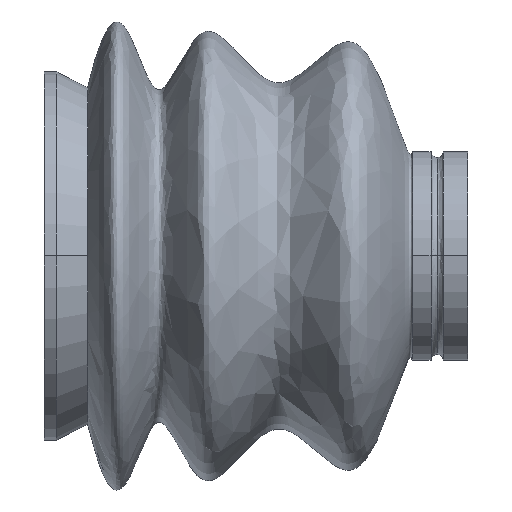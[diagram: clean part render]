
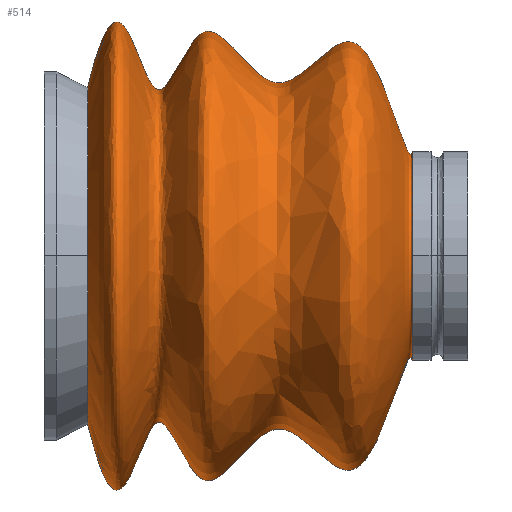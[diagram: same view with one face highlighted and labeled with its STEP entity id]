
A CAD part, top view. The second image highlights one B-rep face of the part: STEP entity #514.
In plain terms, the highlighted free-form (B-spline) face has degree [3, 3] with [8, 4] control points.
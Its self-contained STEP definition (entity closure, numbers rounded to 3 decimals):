
#1 = EDGE_CURVE ( 'NONE', #435, #328, #755, .T. ) ;
#2 = CARTESIAN_POINT ( 'NONE',  ( 26.506, -23.574, 47.148 ) ) ;
#12 = CARTESIAN_POINT ( 'NONE',  ( 26.506, 23.574, 0. ) ) ;
#18 = EDGE_CURVE ( 'NONE', #328, #357, #127, .T. ) ;
#21 = CARTESIAN_POINT ( 'NONE',  ( 26.506, -23.574, 0. ) ) ;
#25 = ORIENTED_EDGE ( 'NONE', *, *, #18, .F. ) ;
#28 = CARTESIAN_POINT ( 'NONE',  ( 26.506, 23.574, 47.148 ) ) ;
#35 = CIRCLE ( 'NONE', #361, 8.5 ) ;
#37 = CARTESIAN_POINT ( 'NONE',  ( 30., 0., 0. ) ) ;
#42 = CARTESIAN_POINT ( 'NONE',  ( 18.758, -9.871, 0. ) ) ;
#45 = CARTESIAN_POINT ( 'NONE',  ( 30., 8.5, 17. ) ) ;
#46 = DIRECTION ( 'NONE',  ( -1., 0., 0. ) ) ;
#57 = ORIENTED_EDGE ( 'NONE', *, *, #941, .T. ) ;
#73 = B_SPLINE_CURVE_WITH_KNOTS ( 'NONE', 3,
 ( #659, #516, #692, #695, #571, #548, #483, #697 ),
 .UNSPECIFIED., .F., .F.,
 ( 4, 1, 1, 1, 1, 4 ),
 ( 0., 0.256, 0.401, 0.579, 0.747, 1. ),
 .UNSPECIFIED. ) ;
#107 = CARTESIAN_POINT ( 'NONE',  ( 3.534, 0., 0. ) ) ;
#108 = EDGE_CURVE ( 'NONE', #673, #357, #275, .T. ) ;
#114 = DIRECTION ( 'NONE',  ( 0., 0., 1. ) ) ;
#127 = CIRCLE ( 'NONE', #555, 13.692 ) ;
#128 = DIRECTION ( 'NONE',  ( 0., 0., 1. ) ) ;
#131 = FACE_OUTER_BOUND ( 'NONE', #599, .T. ) ;
#135 = CARTESIAN_POINT ( 'NONE',  ( 13.06, -22.691, 45.382 ) ) ;
#160 = CARTESIAN_POINT ( 'NONE',  ( 6.436, -25.887, 51.773 ) ) ;
#179 = CARTESIAN_POINT ( 'NONE',  ( 29.418, 6.765, 13.531 ) ) ;
#194 = CARTESIAN_POINT ( 'NONE',  ( 18.758, 9.871, 0. ) ) ;
#215 = CARTESIAN_POINT ( 'NONE',  ( 3.534, 0., 0. ) ) ;
#218 = CARTESIAN_POINT ( 'NONE',  ( 8.267, 6.395, 0. ) ) ;
#275 = B_SPLINE_CURVE_WITH_KNOTS ( 'NONE', 3,
 ( #417, #406, #12, #430, #907, #218, #283, #824 ),
 .UNSPECIFIED., .F., .F.,
 ( 4, 1, 1, 1, 1, 4 ),
 ( 0., 0.253, 0.421, 0.599, 0.744, 1. ),
 .UNSPECIFIED. ) ;
#283 = CARTESIAN_POINT ( 'NONE',  ( 6.436, 25.887, 0. ) ) ;
#286 = CARTESIAN_POINT ( 'NONE',  ( 18.758, -9.871, 19.742 ) ) ;
#290 = DIRECTION ( 'NONE',  ( 0., 0., 1. ) ) ;
#321 = CARTESIAN_POINT ( 'NONE',  ( 8.267, 6.395, 12.791 ) ) ;
#328 = VERTEX_POINT ( 'NONE', #444 ) ;
#356 = CARTESIAN_POINT ( 'NONE',  ( 26.506, 23.574, 0. ) ) ;
#357 = VERTEX_POINT ( 'NONE', #547 ) ;
#361 = AXIS2_PLACEMENT_3D ( 'NONE', #37, #853, #114 ) ;
#406 = CARTESIAN_POINT ( 'NONE',  ( 29.418, 6.765, 0. ) ) ;
#413 = CARTESIAN_POINT ( 'NONE',  ( 13.06, -22.691, 0. ) ) ;
#414 = AXIS2_PLACEMENT_3D ( 'NONE', #791, #832, #128 ) ;
#416 = CARTESIAN_POINT ( 'NONE',  ( 6.436, 25.887, 0. ) ) ;
#417 = CARTESIAN_POINT ( 'NONE',  ( 30., 8.5, 0. ) ) ;
#421 = CARTESIAN_POINT ( 'NONE',  ( 3.534, -13.692, 0. ) ) ;
#427 = CARTESIAN_POINT ( 'NONE',  ( 3.534, -13.692, 27.384 ) ) ;
#430 = CARTESIAN_POINT ( 'NONE',  ( 18.758, 9.871, 0. ) ) ;
#435 = VERTEX_POINT ( 'NONE', #762 ) ;
#443 = CARTESIAN_POINT ( 'NONE',  ( 29.418, -6.765, 13.531 ) ) ;
#444 = CARTESIAN_POINT ( 'NONE',  ( 3.534, 0., 13.692 ) ) ;
#454 = ORIENTED_EDGE ( 'NONE', *, *, #668, .T. ) ;
#483 = CARTESIAN_POINT ( 'NONE',  ( 29.418, -6.765, 0. ) ) ;
#485 = CARTESIAN_POINT ( 'NONE',  ( 29.418, 6.765, 0. ) ) ;
#497 = CARTESIAN_POINT ( 'NONE',  ( 6.436, 25.887, 51.773 ) ) ;
#513 = CARTESIAN_POINT ( 'NONE',  ( 13.06, 22.691, 45.382 ) ) ;
#514 = ADVANCED_FACE ( 'NONE', ( #131 ), #930, .F. ) ;
#516 = CARTESIAN_POINT ( 'NONE',  ( 6.436, -25.887, 0. ) ) ;
#540 = CARTESIAN_POINT ( 'NONE',  ( 8.267, -6.395, 12.791 ) ) ;
#546 = CARTESIAN_POINT ( 'NONE',  ( 30., 0., 8.5 ) ) ;
#547 = CARTESIAN_POINT ( 'NONE',  ( 3.534, 13.692, 0. ) ) ;
#548 = CARTESIAN_POINT ( 'NONE',  ( 26.506, -23.574, 0. ) ) ;
#551 = CARTESIAN_POINT ( 'NONE',  ( 30., 8.5, 0. ) ) ;
#555 = AXIS2_PLACEMENT_3D ( 'NONE', #107, #46, #290 ) ;
#571 = CARTESIAN_POINT ( 'NONE',  ( 18.758, -9.871, 0. ) ) ;
#586 = VERTEX_POINT ( 'NONE', #737 ) ;
#599 = EDGE_LOOP ( 'NONE', ( #884, #57, #767, #25, #897, #454 ) ) ;
#628 = AXIS2_PLACEMENT_3D ( 'NONE', #215, #905, #911 ) ;
#643 = CARTESIAN_POINT ( 'NONE',  ( 8.267, 6.395, 0. ) ) ;
#659 = CARTESIAN_POINT ( 'NONE',  ( 3.534, -13.692, 0. ) ) ;
#668 = EDGE_CURVE ( 'NONE', #435, #586, #73, .T. ) ;
#673 = VERTEX_POINT ( 'NONE', #728 ) ;
#687 = CARTESIAN_POINT ( 'NONE',  ( 8.267, -6.395, 0. ) ) ;
#689 = CARTESIAN_POINT ( 'NONE',  ( 13.06, 22.691, 0. ) ) ;
#692 = CARTESIAN_POINT ( 'NONE',  ( 8.267, -6.395, 0. ) ) ;
#695 = CARTESIAN_POINT ( 'NONE',  ( 13.06, -22.691, 0. ) ) ;
#697 = CARTESIAN_POINT ( 'NONE',  ( 30., -8.5, 0. ) ) ;
#728 = CARTESIAN_POINT ( 'NONE',  ( 30., 8.5, 0. ) ) ;
#737 = CARTESIAN_POINT ( 'NONE',  ( 30., -8.5, 0. ) ) ;
#746 = EDGE_CURVE ( 'NONE', #586, #828, #35, .T. ) ;
#755 = CIRCLE ( 'NONE', #628, 13.692 ) ;
#762 = CARTESIAN_POINT ( 'NONE',  ( 3.534, -13.692, 0. ) ) ;
#765 = CARTESIAN_POINT ( 'NONE',  ( 3.534, 13.692, 27.384 ) ) ;
#767 = ORIENTED_EDGE ( 'NONE', *, *, #108, .T. ) ;
#770 = CARTESIAN_POINT ( 'NONE',  ( 3.534, 13.692, 0. ) ) ;
#791 = CARTESIAN_POINT ( 'NONE',  ( 30., 0., 0. ) ) ;
#824 = CARTESIAN_POINT ( 'NONE',  ( 3.534, 13.692, 0. ) ) ;
#828 = VERTEX_POINT ( 'NONE', #546 ) ;
#832 = DIRECTION ( 'NONE',  ( -1., 0., 0. ) ) ;
#841 = CARTESIAN_POINT ( 'NONE',  ( 6.436, -25.887, 0. ) ) ;
#844 = CARTESIAN_POINT ( 'NONE',  ( 18.758, 9.871, 19.742 ) ) ;
#853 = DIRECTION ( 'NONE',  ( -1., 0., 0. ) ) ;
#884 = ORIENTED_EDGE ( 'NONE', *, *, #746, .T. ) ;
#897 = ORIENTED_EDGE ( 'NONE', *, *, #1, .F. ) ;
#905 = DIRECTION ( 'NONE',  ( -1., 0., 0. ) ) ;
#907 = CARTESIAN_POINT ( 'NONE',  ( 13.06, 22.691, 0. ) ) ;
#911 = DIRECTION ( 'NONE',  ( 0., 0., 1. ) ) ;
#912 = CARTESIAN_POINT ( 'NONE',  ( 30., -8.5, 0. ) ) ;
#918 = CIRCLE ( 'NONE', #414, 8.5 ) ;
#922 = CARTESIAN_POINT ( 'NONE',  ( 29.418, -6.765, 0. ) ) ;
#930 =( BOUNDED_SURFACE ( )  B_SPLINE_SURFACE ( 3, 3, ( 
 ( #912, #931, #45, #551 ),
 ( #922, #443, #179, #485 ),
 ( #21, #2, #28, #356 ),
 ( #42, #286, #844, #194 ),
 ( #413, #135, #513, #689 ),
 ( #687, #540, #321, #643 ),
 ( #841, #160, #497, #416 ),
 ( #421, #427, #765, #770 ) ),
 .UNSPECIFIED., .F., .F., .F. ) 
 B_SPLINE_SURFACE_WITH_KNOTS ( ( 4, 1, 1, 1, 1, 4 ),
 ( 4, 4 ),
 ( 0., 0.253, 0.421, 0.599, 0.744, 1. ),
 ( 0., 1. ),
 .UNSPECIFIED. ) 
 GEOMETRIC_REPRESENTATION_ITEM ( )  RATIONAL_B_SPLINE_SURFACE ( (
 ( 1., 0.333, 0.333, 1.),
 ( 1., 0.333, 0.333, 1.),
 ( 1., 0.333, 0.333, 1.),
 ( 1., 0.333, 0.333, 1.),
 ( 1., 0.333, 0.333, 1.),
 ( 1., 0.333, 0.333, 1.),
 ( 1., 0.333, 0.333, 1.),
 ( 1., 0.333, 0.333, 1.) ) ) 
 REPRESENTATION_ITEM ( '' )  SURFACE ( )  );
#931 = CARTESIAN_POINT ( 'NONE',  ( 30., -8.5, 17. ) ) ;
#941 = EDGE_CURVE ( 'NONE', #828, #673, #918, .T. ) ;
